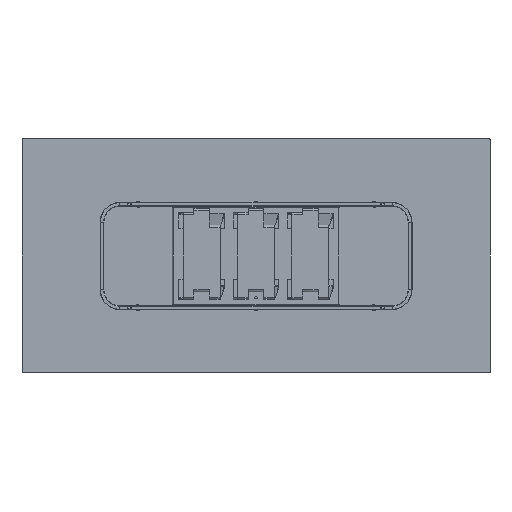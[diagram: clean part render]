
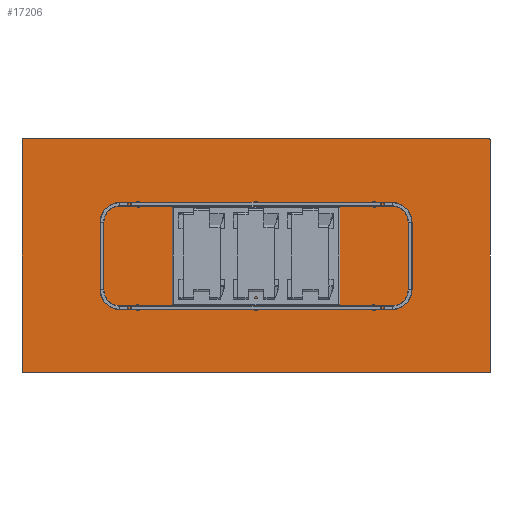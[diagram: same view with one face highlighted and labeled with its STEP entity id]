
A CAD part, front view. The second image highlights one B-rep face of the part: STEP entity #17206.
In plain terms, the highlighted planar face has unit normal (0, -1, 0).
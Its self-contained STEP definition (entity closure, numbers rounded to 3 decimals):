
#178 = DIRECTION ( 'NONE',  ( 0., 1., 0. ) ) ;
#513 = AXIS2_PLACEMENT_3D ( 'NONE', #2138, #17024, #811 ) ;
#811 = DIRECTION ( 'NONE',  ( 0., 0., 1. ) ) ;
#956 = VERTEX_POINT ( 'NONE', #10270 ) ;
#1213 = LINE ( 'NONE', #17332, #2262 ) ;
#1724 = DIRECTION ( 'NONE',  ( 0., 0., 1. ) ) ;
#1774 = LINE ( 'NONE', #7088, #9243 ) ;
#2138 = CARTESIAN_POINT ( 'NONE',  ( 1195., 0., 595. ) ) ;
#2262 = VECTOR ( 'NONE', #14593, 1000. ) ;
#2736 = CARTESIAN_POINT ( 'NONE',  ( -1195., 0., 595. ) ) ;
#3030 = VECTOR ( 'NONE', #6400, 1000. ) ;
#3397 = EDGE_CURVE ( 'NONE', #15478, #12032, #16867, .T. ) ;
#3672 = EDGE_CURVE ( 'NONE', #8261, #956, #10085, .T. ) ;
#4622 = EDGE_CURVE ( 'NONE', #6680, #12679, #12377, .T. ) ;
#4665 = ORIENTED_EDGE ( 'NONE', *, *, #5435, .F. ) ;
#4680 = EDGE_CURVE ( 'NONE', #10730, #12032, #14210, .T. ) ;
#4730 = AXIS2_PLACEMENT_3D ( 'NONE', #12719, #9877, #1724 ) ;
#5094 = ORIENTED_EDGE ( 'NONE', *, *, #4622, .T. ) ;
#5194 = EDGE_CURVE ( 'NONE', #10730, #11873, #8152, .T. ) ;
#5269 = AXIS2_PLACEMENT_3D ( 'NONE', #2736, #10890, #12224 ) ;
#5435 = EDGE_CURVE ( 'NONE', #15478, #12679, #1774, .T. ) ;
#5952 = DIRECTION ( 'NONE',  ( 1., 0., 0. ) ) ;
#6400 = DIRECTION ( 'NONE',  ( 0., 0., -1. ) ) ;
#6680 = VERTEX_POINT ( 'NONE', #13566 ) ;
#6968 = ORIENTED_EDGE ( 'NONE', *, *, #5194, .T. ) ;
#7088 = CARTESIAN_POINT ( 'NONE',  ( -1200., 0., -600. ) ) ;
#7269 = DIRECTION ( 'NONE',  ( -1., 0., 0. ) ) ;
#7371 = DIRECTION ( 'NONE',  ( 0., -1., 0. ) ) ;
#7979 = ORIENTED_EDGE ( 'NONE', *, *, #15782, .F. ) ;
#8152 = CIRCLE ( 'NONE', #513, 5. ) ;
#8196 = VECTOR ( 'NONE', #5952, 1000. ) ;
#8261 = VERTEX_POINT ( 'NONE', #16198 ) ;
#8423 = DIRECTION ( 'NONE',  ( 0., 0., 1. ) ) ;
#8700 = CARTESIAN_POINT ( 'NONE',  ( 1195., 0., -595. ) ) ;
#8837 = ORIENTED_EDGE ( 'NONE', *, *, #3397, .T. ) ;
#9144 = EDGE_LOOP ( 'NONE', ( #10966, #6968, #7979, #12668, #15398, #5094, #4665, #8837 ) ) ;
#9243 = VECTOR ( 'NONE', #7269, 1000. ) ;
#9847 = CARTESIAN_POINT ( 'NONE',  ( 1195., 0., 600. ) ) ;
#9852 = LINE ( 'NONE', #10114, #8196 ) ;
#9877 = DIRECTION ( 'NONE',  ( 0., -1., 0. ) ) ;
#10085 = CIRCLE ( 'NONE', #5269, 5. ) ;
#10114 = CARTESIAN_POINT ( 'NONE',  ( -1200., 0., 600. ) ) ;
#10270 = CARTESIAN_POINT ( 'NONE',  ( -1200., 0., 595. ) ) ;
#10730 = VERTEX_POINT ( 'NONE', #13432 ) ;
#10827 = CARTESIAN_POINT ( 'NONE',  ( -1195., 0., -600. ) ) ;
#10890 = DIRECTION ( 'NONE',  ( 0., -1., 0. ) ) ;
#10966 = ORIENTED_EDGE ( 'NONE', *, *, #4680, .F. ) ;
#10992 = CARTESIAN_POINT ( 'NONE',  ( 0., 0., 0. ) ) ;
#11207 = AXIS2_PLACEMENT_3D ( 'NONE', #8700, #7371, #15516 ) ;
#11257 = PLANE ( 'NONE',  #16992 ) ;
#11873 = VERTEX_POINT ( 'NONE', #9847 ) ;
#12032 = VERTEX_POINT ( 'NONE', #12374 ) ;
#12224 = DIRECTION ( 'NONE',  ( 0., 0., 1. ) ) ;
#12374 = CARTESIAN_POINT ( 'NONE',  ( 1200., 0., -595. ) ) ;
#12377 = CIRCLE ( 'NONE', #4730, 5. ) ;
#12668 = ORIENTED_EDGE ( 'NONE', *, *, #3672, .T. ) ;
#12679 = VERTEX_POINT ( 'NONE', #10827 ) ;
#12719 = CARTESIAN_POINT ( 'NONE',  ( -1195., 0., -595. ) ) ;
#12886 = CARTESIAN_POINT ( 'NONE',  ( 1200., 0., -600. ) ) ;
#13432 = CARTESIAN_POINT ( 'NONE',  ( 1200., 0., 595. ) ) ;
#13566 = CARTESIAN_POINT ( 'NONE',  ( -1200., 0., -595. ) ) ;
#14061 = CARTESIAN_POINT ( 'NONE',  ( 1195., 0., -600. ) ) ;
#14210 = LINE ( 'NONE', #12886, #3030 ) ;
#14593 = DIRECTION ( 'NONE',  ( 0., 0., 1. ) ) ;
#15241 = FACE_OUTER_BOUND ( 'NONE', #9144, .T. ) ;
#15398 = ORIENTED_EDGE ( 'NONE', *, *, #16447, .F. ) ;
#15478 = VERTEX_POINT ( 'NONE', #14061 ) ;
#15516 = DIRECTION ( 'NONE',  ( 0., 0., 1. ) ) ;
#15782 = EDGE_CURVE ( 'NONE', #8261, #11873, #9852, .T. ) ;
#16198 = CARTESIAN_POINT ( 'NONE',  ( -1195., 0., 600. ) ) ;
#16447 = EDGE_CURVE ( 'NONE', #6680, #956, #1213, .T. ) ;
#16867 = CIRCLE ( 'NONE', #11207, 5. ) ;
#16992 = AXIS2_PLACEMENT_3D ( 'NONE', #10992, #178, #8423 ) ;
#17024 = DIRECTION ( 'NONE',  ( 0., -1., 0. ) ) ;
#17206 = ADVANCED_FACE ( 'NONE', ( #15241 ), #11257, .F. ) ;
#17332 = CARTESIAN_POINT ( 'NONE',  ( -1200., 0., -600. ) ) ;
